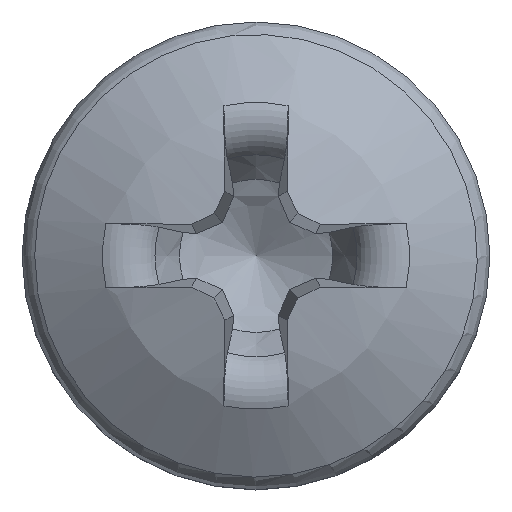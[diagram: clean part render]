
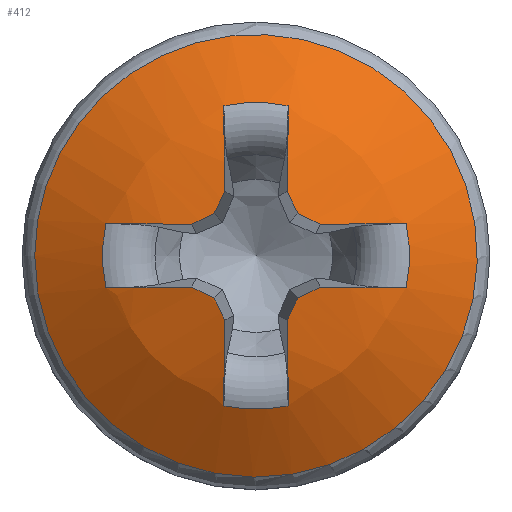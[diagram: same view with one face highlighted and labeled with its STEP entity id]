
A CAD part, top view. The second image highlights one B-rep face of the part: STEP entity #412.
In plain terms, the highlighted spherical face has radius 5.559 mm.
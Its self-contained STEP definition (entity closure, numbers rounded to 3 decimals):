
#375=SPHERICAL_SURFACE('',#2204,5.56);
#386=FACE_BOUND('',#685,.T.);
#387=FACE_BOUND('',#686,.T.);
#412=ADVANCED_FACE('',(#386,#387),#375,.T.);
#685=EDGE_LOOP('',(#921));
#686=EDGE_LOOP('',(#922,#923,#924,#925,#926,#927,#928,#929,#930,#931,#932,
#933,#934,#935,#936,#937,#938,#939,#940,#941));
#832=CIRCLE('',#2183,3.311);
#833=CIRCLE('',#2184,5.559);
#834=CIRCLE('',#2185,2.296);
#835=CIRCLE('',#2186,5.559);
#836=CIRCLE('',#2187,5.552);
#837=CIRCLE('',#2188,5.552);
#838=CIRCLE('',#2189,5.559);
#839=CIRCLE('',#2190,2.296);
#840=CIRCLE('',#2191,5.559);
#841=CIRCLE('',#2192,5.552);
#842=CIRCLE('',#2193,5.552);
#843=CIRCLE('',#2194,5.559);
#844=CIRCLE('',#2195,2.296);
#845=CIRCLE('',#2196,5.559);
#846=CIRCLE('',#2197,5.552);
#847=CIRCLE('',#2198,5.552);
#848=CIRCLE('',#2199,5.559);
#849=CIRCLE('',#2200,2.296);
#850=CIRCLE('',#2201,5.559);
#851=CIRCLE('',#2202,5.552);
#852=CIRCLE('',#2203,5.552);
#921=ORIENTED_EDGE('',*,*,#1742,.T.);
#922=ORIENTED_EDGE('',*,*,#1743,.F.);
#923=ORIENTED_EDGE('',*,*,#1744,.T.);
#924=ORIENTED_EDGE('',*,*,#1745,.F.);
#925=ORIENTED_EDGE('',*,*,#1746,.F.);
#926=ORIENTED_EDGE('',*,*,#1747,.F.);
#927=ORIENTED_EDGE('',*,*,#1748,.F.);
#928=ORIENTED_EDGE('',*,*,#1749,.T.);
#929=ORIENTED_EDGE('',*,*,#1750,.F.);
#930=ORIENTED_EDGE('',*,*,#1751,.F.);
#931=ORIENTED_EDGE('',*,*,#1752,.F.);
#932=ORIENTED_EDGE('',*,*,#1753,.F.);
#933=ORIENTED_EDGE('',*,*,#1754,.T.);
#934=ORIENTED_EDGE('',*,*,#1755,.F.);
#935=ORIENTED_EDGE('',*,*,#1756,.F.);
#936=ORIENTED_EDGE('',*,*,#1757,.F.);
#937=ORIENTED_EDGE('',*,*,#1758,.F.);
#938=ORIENTED_EDGE('',*,*,#1759,.T.);
#939=ORIENTED_EDGE('',*,*,#1760,.F.);
#940=ORIENTED_EDGE('',*,*,#1761,.F.);
#941=ORIENTED_EDGE('',*,*,#1762,.F.);
#1551=VERTEX_POINT('',#4825);
#1552=VERTEX_POINT('',#4827);
#1553=VERTEX_POINT('',#4828);
#1554=VERTEX_POINT('',#4830);
#1555=VERTEX_POINT('',#4832);
#1556=VERTEX_POINT('',#4834);
#1557=VERTEX_POINT('',#4836);
#1558=VERTEX_POINT('',#4838);
#1559=VERTEX_POINT('',#4840);
#1560=VERTEX_POINT('',#4842);
#1561=VERTEX_POINT('',#4844);
#1562=VERTEX_POINT('',#4846);
#1563=VERTEX_POINT('',#4848);
#1564=VERTEX_POINT('',#4850);
#1565=VERTEX_POINT('',#4852);
#1566=VERTEX_POINT('',#4854);
#1567=VERTEX_POINT('',#4856);
#1568=VERTEX_POINT('',#4858);
#1569=VERTEX_POINT('',#4860);
#1570=VERTEX_POINT('',#4862);
#1571=VERTEX_POINT('',#4864);
#1742=EDGE_CURVE('',#1551,#1551,#832,.T.);
#1743=EDGE_CURVE('',#1552,#1553,#833,.T.);
#1744=EDGE_CURVE('',#1552,#1554,#834,.T.);
#1745=EDGE_CURVE('',#1555,#1554,#835,.T.);
#1746=EDGE_CURVE('',#1556,#1555,#836,.T.);
#1747=EDGE_CURVE('',#1557,#1556,#837,.T.);
#1748=EDGE_CURVE('',#1558,#1557,#838,.T.);
#1749=EDGE_CURVE('',#1558,#1559,#839,.T.);
#1750=EDGE_CURVE('',#1560,#1559,#840,.T.);
#1751=EDGE_CURVE('',#1561,#1560,#841,.T.);
#1752=EDGE_CURVE('',#1562,#1561,#842,.T.);
#1753=EDGE_CURVE('',#1563,#1562,#843,.T.);
#1754=EDGE_CURVE('',#1563,#1564,#844,.T.);
#1755=EDGE_CURVE('',#1565,#1564,#845,.T.);
#1756=EDGE_CURVE('',#1566,#1565,#846,.T.);
#1757=EDGE_CURVE('',#1567,#1566,#847,.T.);
#1758=EDGE_CURVE('',#1568,#1567,#848,.T.);
#1759=EDGE_CURVE('',#1568,#1569,#849,.T.);
#1760=EDGE_CURVE('',#1570,#1569,#850,.T.);
#1761=EDGE_CURVE('',#1571,#1570,#851,.T.);
#1762=EDGE_CURVE('',#1553,#1571,#852,.T.);
#2183=AXIS2_PLACEMENT_3D('',#4824,#2268,#2269);
#2184=AXIS2_PLACEMENT_3D('',#4826,#2270,#2271);
#2185=AXIS2_PLACEMENT_3D('',#4829,#2272,#2273);
#2186=AXIS2_PLACEMENT_3D('',#4831,#2274,#2275);
#2187=AXIS2_PLACEMENT_3D('',#4833,#2276,#2277);
#2188=AXIS2_PLACEMENT_3D('',#4835,#2278,#2279);
#2189=AXIS2_PLACEMENT_3D('',#4837,#2280,#2281);
#2190=AXIS2_PLACEMENT_3D('',#4839,#2282,#2283);
#2191=AXIS2_PLACEMENT_3D('',#4841,#2284,#2285);
#2192=AXIS2_PLACEMENT_3D('',#4843,#2286,#2287);
#2193=AXIS2_PLACEMENT_3D('',#4845,#2288,#2289);
#2194=AXIS2_PLACEMENT_3D('',#4847,#2290,#2291);
#2195=AXIS2_PLACEMENT_3D('',#4849,#2292,#2293);
#2196=AXIS2_PLACEMENT_3D('',#4851,#2294,#2295);
#2197=AXIS2_PLACEMENT_3D('',#4853,#2296,#2297);
#2198=AXIS2_PLACEMENT_3D('',#4855,#2298,#2299);
#2199=AXIS2_PLACEMENT_3D('',#4857,#2300,#2301);
#2200=AXIS2_PLACEMENT_3D('',#4859,#2302,#2303);
#2201=AXIS2_PLACEMENT_3D('',#4861,#2304,#2305);
#2202=AXIS2_PLACEMENT_3D('',#4863,#2306,#2307);
#2203=AXIS2_PLACEMENT_3D('',#4865,#2308,#2309);
#2204=AXIS2_PLACEMENT_3D('',#4866,#2310,#2311);
#2268=DIRECTION('',(0.,0.,1.));
#2269=DIRECTION('',(-1.,0.,0.));
#2270=DIRECTION('',(-0.996,-0.035,0.087));
#2271=DIRECTION('',(0.087,0.,0.996));
#2272=DIRECTION('',(0.,0.,-1.));
#2273=DIRECTION('',(-1.,0.,0.));
#2274=DIRECTION('',(0.996,-0.035,0.087));
#2275=DIRECTION('',(0.087,0.,-0.996));
#2276=DIRECTION('',(0.902,0.42,0.1));
#2277=DIRECTION('',(-0.423,0.906,0.));
#2278=DIRECTION('',(0.42,0.902,0.1));
#2279=DIRECTION('',(-0.906,0.423,0.));
#2280=DIRECTION('',(-0.035,0.996,0.087));
#2281=DIRECTION('',(0.,-0.087,0.996));
#2282=DIRECTION('',(0.,0.,-1.));
#2283=DIRECTION('',(-1.,0.,0.));
#2284=DIRECTION('',(-0.035,-0.996,0.087));
#2285=DIRECTION('',(0.,-0.087,-0.996));
#2286=DIRECTION('',(0.42,-0.902,0.1));
#2287=DIRECTION('',(0.906,0.423,0.));
#2288=DIRECTION('',(0.902,-0.42,0.1));
#2289=DIRECTION('',(0.423,0.906,0.));
#2290=DIRECTION('',(0.996,0.035,0.087));
#2291=DIRECTION('',(0.087,0.,-0.996));
#2292=DIRECTION('',(0.,0.,-1.));
#2293=DIRECTION('',(-1.,0.,0.));
#2294=DIRECTION('',(-0.996,0.035,0.087));
#2295=DIRECTION('',(0.087,0.,0.996));
#2296=DIRECTION('',(-0.902,-0.42,0.1));
#2297=DIRECTION('',(0.423,-0.906,0.));
#2298=DIRECTION('',(-0.42,-0.902,0.1));
#2299=DIRECTION('',(0.906,-0.423,0.));
#2300=DIRECTION('',(0.035,-0.996,0.087));
#2301=DIRECTION('',(0.,-0.087,-0.996));
#2302=DIRECTION('',(0.,0.,-1.));
#2303=DIRECTION('',(-1.,0.,0.));
#2304=DIRECTION('',(0.035,0.996,0.087));
#2305=DIRECTION('',(0.,-0.087,0.996));
#2306=DIRECTION('',(-0.42,0.902,0.1));
#2307=DIRECTION('',(-0.906,-0.423,0.));
#2308=DIRECTION('',(-0.902,0.42,0.1));
#2309=DIRECTION('',(-0.423,-0.906,0.));
#2310=DIRECTION('',(0.,0.,1.));
#2311=DIRECTION('',(0.,1.,0.));
#4824=CARTESIAN_POINT('',(0.,0.,2.006));
#4825=CARTESIAN_POINT('',(-3.311,0.,2.006));
#4826=CARTESIAN_POINT('',(-0.042,-0.001,-2.456));
#4827=CARTESIAN_POINT('',(0.479,-2.246,2.604));
#4828=CARTESIAN_POINT('',(0.469,-0.964,2.996));
#4829=CARTESIAN_POINT('',(0.,0.,2.604));
#4830=CARTESIAN_POINT('',(-0.479,-2.246,2.604));
#4831=CARTESIAN_POINT('',(0.042,-0.001,-2.456));
#4832=CARTESIAN_POINT('',(-0.469,-0.964,2.996));
#4833=CARTESIAN_POINT('',(-0.254,-0.118,-2.488));
#4834=CARTESIAN_POINT('',(-0.629,-0.629,3.028));
#4835=CARTESIAN_POINT('',(-0.118,-0.254,-2.488));
#4836=CARTESIAN_POINT('',(-0.964,-0.469,2.996));
#4837=CARTESIAN_POINT('',(-0.001,0.042,-2.456));
#4838=CARTESIAN_POINT('',(-2.246,-0.479,2.604));
#4839=CARTESIAN_POINT('',(0.,0.,2.604));
#4840=CARTESIAN_POINT('',(-2.246,0.479,2.604));
#4841=CARTESIAN_POINT('',(-0.001,-0.042,-2.456));
#4842=CARTESIAN_POINT('',(-0.964,0.469,2.996));
#4843=CARTESIAN_POINT('',(-0.118,0.254,-2.488));
#4844=CARTESIAN_POINT('',(-0.629,0.629,3.028));
#4845=CARTESIAN_POINT('',(-0.254,0.118,-2.488));
#4846=CARTESIAN_POINT('',(-0.469,0.964,2.996));
#4847=CARTESIAN_POINT('',(0.042,0.001,-2.456));
#4848=CARTESIAN_POINT('',(-0.479,2.246,2.604));
#4849=CARTESIAN_POINT('',(0.,0.,2.604));
#4850=CARTESIAN_POINT('',(0.479,2.246,2.604));
#4851=CARTESIAN_POINT('',(-0.042,0.001,-2.456));
#4852=CARTESIAN_POINT('',(0.469,0.964,2.996));
#4853=CARTESIAN_POINT('',(0.254,0.118,-2.488));
#4854=CARTESIAN_POINT('',(0.629,0.629,3.028));
#4855=CARTESIAN_POINT('',(0.118,0.254,-2.488));
#4856=CARTESIAN_POINT('',(0.964,0.469,2.996));
#4857=CARTESIAN_POINT('',(0.001,-0.042,-2.456));
#4858=CARTESIAN_POINT('',(2.246,0.479,2.604));
#4859=CARTESIAN_POINT('',(0.,0.,2.604));
#4860=CARTESIAN_POINT('',(2.246,-0.479,2.604));
#4861=CARTESIAN_POINT('',(0.001,0.042,-2.456));
#4862=CARTESIAN_POINT('',(0.964,-0.469,2.996));
#4863=CARTESIAN_POINT('',(0.118,-0.254,-2.488));
#4864=CARTESIAN_POINT('',(0.629,-0.629,3.028));
#4865=CARTESIAN_POINT('',(0.254,-0.118,-2.488));
#4866=CARTESIAN_POINT('',(0.,0.,-2.46));
